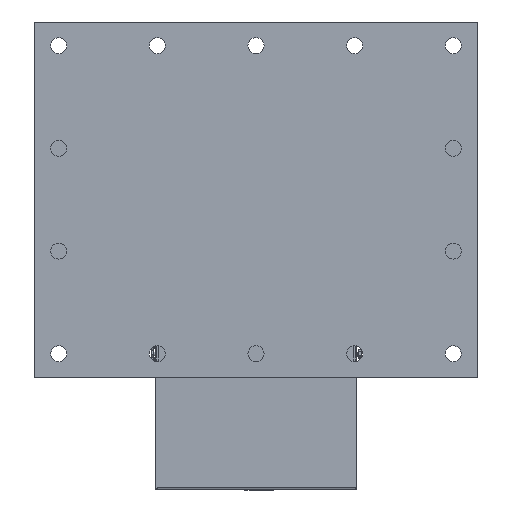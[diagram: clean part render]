
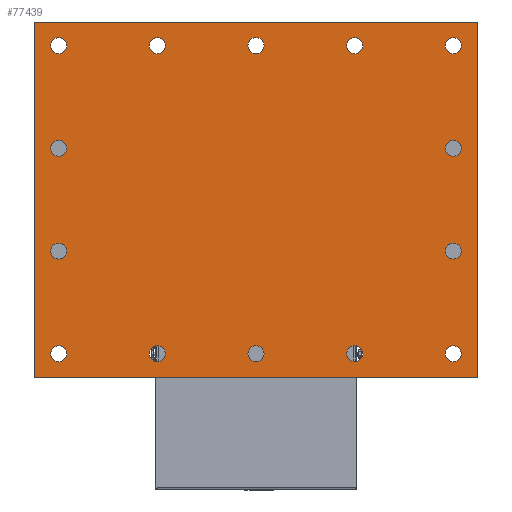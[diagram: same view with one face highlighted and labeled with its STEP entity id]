
A CAD part, top view. The second image highlights one B-rep face of the part: STEP entity #77439.
In plain terms, the highlighted planar face has unit normal (0, 0, 1).
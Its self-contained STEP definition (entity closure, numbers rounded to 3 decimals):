
#3541=FACE_BOUND('',#12370,.T.);
#3542=FACE_BOUND('',#12371,.T.);
#3543=FACE_BOUND('',#12372,.T.);
#3544=FACE_BOUND('',#12373,.T.);
#3545=FACE_BOUND('',#12374,.T.);
#3546=FACE_BOUND('',#12375,.T.);
#3547=FACE_BOUND('',#12376,.T.);
#3548=FACE_BOUND('',#12377,.T.);
#3549=FACE_BOUND('',#12378,.T.);
#3550=FACE_BOUND('',#12379,.T.);
#3551=FACE_BOUND('',#12380,.T.);
#3552=FACE_BOUND('',#12381,.T.);
#3553=FACE_BOUND('',#12382,.T.);
#3554=FACE_BOUND('',#12383,.T.);
#7719=FACE_OUTER_BOUND('',#12369,.T.);
#12369=EDGE_LOOP('',(#61132,#61133,#61134,#61135));
#12370=EDGE_LOOP('',(#61136));
#12371=EDGE_LOOP('',(#61137));
#12372=EDGE_LOOP('',(#61138));
#12373=EDGE_LOOP('',(#61139));
#12374=EDGE_LOOP('',(#61140));
#12375=EDGE_LOOP('',(#61141));
#12376=EDGE_LOOP('',(#61142));
#12377=EDGE_LOOP('',(#61143));
#12378=EDGE_LOOP('',(#61144));
#12379=EDGE_LOOP('',(#61145));
#12380=EDGE_LOOP('',(#61146));
#12381=EDGE_LOOP('',(#61147));
#12382=EDGE_LOOP('',(#61148));
#12383=EDGE_LOOP('',(#61149));
#14818=CIRCLE('',#81458,19.5);
#14821=CIRCLE('',#81462,19.5);
#14823=CIRCLE('',#81465,19.5);
#14824=CIRCLE('',#81467,19.5);
#14827=CIRCLE('',#81471,19.5);
#14828=CIRCLE('',#81473,19.5);
#14831=CIRCLE('',#81477,19.5);
#14832=CIRCLE('',#81479,19.5);
#14835=CIRCLE('',#81483,19.5);
#14837=CIRCLE('',#81486,19.5);
#14839=CIRCLE('',#81489,19.5);
#14840=CIRCLE('',#81491,19.5);
#14842=CIRCLE('',#81494,19.5);
#14845=CIRCLE('',#81498,19.5);
#20555=LINE('',#132979,#26618);
#20556=LINE('',#132981,#26619);
#20557=LINE('',#132983,#26620);
#20558=LINE('',#132984,#26621);
#26618=VECTOR('',#98928,865.);
#26619=VECTOR('',#98929,1080.);
#26620=VECTOR('',#98930,865.);
#26621=VECTOR('',#98931,1080.);
#31413=VERTEX_POINT('',#124802);
#31416=VERTEX_POINT('',#124809);
#31418=VERTEX_POINT('',#124814);
#31419=VERTEX_POINT('',#124817);
#31422=VERTEX_POINT('',#124824);
#31423=VERTEX_POINT('',#124827);
#31426=VERTEX_POINT('',#124834);
#31427=VERTEX_POINT('',#124837);
#31430=VERTEX_POINT('',#124844);
#31432=VERTEX_POINT('',#124849);
#31434=VERTEX_POINT('',#124854);
#31435=VERTEX_POINT('',#124857);
#31437=VERTEX_POINT('',#124862);
#31440=VERTEX_POINT('',#124869);
#33311=VERTEX_POINT('',#132977);
#33312=VERTEX_POINT('',#132978);
#33313=VERTEX_POINT('',#132980);
#33314=VERTEX_POINT('',#132982);
#40055=EDGE_CURVE('',#31413,#31413,#14818,.T.);
#40058=EDGE_CURVE('',#31416,#31416,#14821,.T.);
#40060=EDGE_CURVE('',#31418,#31418,#14823,.T.);
#40061=EDGE_CURVE('',#31419,#31419,#14824,.T.);
#40064=EDGE_CURVE('',#31422,#31422,#14827,.T.);
#40065=EDGE_CURVE('',#31423,#31423,#14828,.T.);
#40068=EDGE_CURVE('',#31426,#31426,#14831,.T.);
#40069=EDGE_CURVE('',#31427,#31427,#14832,.T.);
#40072=EDGE_CURVE('',#31430,#31430,#14835,.T.);
#40074=EDGE_CURVE('',#31432,#31432,#14837,.T.);
#40076=EDGE_CURVE('',#31434,#31434,#14839,.T.);
#40077=EDGE_CURVE('',#31435,#31435,#14840,.T.);
#40079=EDGE_CURVE('',#31437,#31437,#14842,.T.);
#40082=EDGE_CURVE('',#31440,#31440,#14845,.T.);
#42981=EDGE_CURVE('',#33311,#33312,#20555,.T.);
#42982=EDGE_CURVE('',#33313,#33311,#20556,.T.);
#42983=EDGE_CURVE('',#33314,#33313,#20557,.T.);
#42984=EDGE_CURVE('',#33312,#33314,#20558,.T.);
#61132=ORIENTED_EDGE('',*,*,#42981,.F.);
#61133=ORIENTED_EDGE('',*,*,#42982,.F.);
#61134=ORIENTED_EDGE('',*,*,#42983,.F.);
#61135=ORIENTED_EDGE('',*,*,#42984,.F.);
#61136=ORIENTED_EDGE('',*,*,#40055,.T.);
#61137=ORIENTED_EDGE('',*,*,#40058,.T.);
#61138=ORIENTED_EDGE('',*,*,#40060,.T.);
#61139=ORIENTED_EDGE('',*,*,#40061,.T.);
#61140=ORIENTED_EDGE('',*,*,#40064,.T.);
#61141=ORIENTED_EDGE('',*,*,#40065,.T.);
#61142=ORIENTED_EDGE('',*,*,#40068,.T.);
#61143=ORIENTED_EDGE('',*,*,#40069,.T.);
#61144=ORIENTED_EDGE('',*,*,#40072,.T.);
#61145=ORIENTED_EDGE('',*,*,#40074,.T.);
#61146=ORIENTED_EDGE('',*,*,#40076,.T.);
#61147=ORIENTED_EDGE('',*,*,#40077,.T.);
#61148=ORIENTED_EDGE('',*,*,#40079,.T.);
#61149=ORIENTED_EDGE('',*,*,#40082,.T.);
#69604=PLANE('',#83483);
#77439=ADVANCED_FACE('',(#7719,#3541,#3542,#3543,#3544,#3545,#3546,#3547,
#3548,#3549,#3550,#3551,#3552,#3553,#3554),#69604,.T.);
#81458=AXIS2_PLACEMENT_3D('',#124803,#93155,#93156);
#81462=AXIS2_PLACEMENT_3D('',#124810,#93163,#93164);
#81465=AXIS2_PLACEMENT_3D('',#124815,#93169,#93170);
#81467=AXIS2_PLACEMENT_3D('',#124818,#93173,#93174);
#81471=AXIS2_PLACEMENT_3D('',#124825,#93181,#93182);
#81473=AXIS2_PLACEMENT_3D('',#124828,#93185,#93186);
#81477=AXIS2_PLACEMENT_3D('',#124835,#93193,#93194);
#81479=AXIS2_PLACEMENT_3D('',#124838,#93197,#93198);
#81483=AXIS2_PLACEMENT_3D('',#124845,#93205,#93206);
#81486=AXIS2_PLACEMENT_3D('',#124850,#93211,#93212);
#81489=AXIS2_PLACEMENT_3D('',#124855,#93217,#93218);
#81491=AXIS2_PLACEMENT_3D('',#124858,#93221,#93222);
#81494=AXIS2_PLACEMENT_3D('',#124863,#93227,#93228);
#81498=AXIS2_PLACEMENT_3D('',#124870,#93235,#93236);
#83483=AXIS2_PLACEMENT_3D('',#132976,#98926,#98927);
#93155=DIRECTION('center_axis',(0.,0.,-1.));
#93156=DIRECTION('ref_axis',(1.,0.,0.));
#93163=DIRECTION('center_axis',(0.,0.,-1.));
#93164=DIRECTION('ref_axis',(1.,0.,0.));
#93169=DIRECTION('center_axis',(0.,0.,-1.));
#93170=DIRECTION('ref_axis',(1.,0.,0.));
#93173=DIRECTION('center_axis',(0.,0.,-1.));
#93174=DIRECTION('ref_axis',(1.,0.,0.));
#93181=DIRECTION('center_axis',(0.,0.,-1.));
#93182=DIRECTION('ref_axis',(1.,0.,0.));
#93185=DIRECTION('center_axis',(0.,0.,-1.));
#93186=DIRECTION('ref_axis',(1.,0.,0.));
#93193=DIRECTION('center_axis',(0.,0.,-1.));
#93194=DIRECTION('ref_axis',(1.,0.,0.));
#93197=DIRECTION('center_axis',(0.,0.,-1.));
#93198=DIRECTION('ref_axis',(1.,0.,0.));
#93205=DIRECTION('center_axis',(0.,0.,-1.));
#93206=DIRECTION('ref_axis',(1.,0.,0.));
#93211=DIRECTION('center_axis',(0.,0.,-1.));
#93212=DIRECTION('ref_axis',(1.,0.,0.));
#93217=DIRECTION('center_axis',(0.,0.,-1.));
#93218=DIRECTION('ref_axis',(1.,0.,0.));
#93221=DIRECTION('center_axis',(0.,0.,-1.));
#93222=DIRECTION('ref_axis',(1.,0.,0.));
#93227=DIRECTION('center_axis',(0.,0.,-1.));
#93228=DIRECTION('ref_axis',(1.,0.,0.));
#93235=DIRECTION('center_axis',(0.,0.,-1.));
#93236=DIRECTION('ref_axis',(1.,0.,0.));
#98926=DIRECTION('center_axis',(0.,0.,1.));
#98927=DIRECTION('ref_axis',(1.,0.,0.));
#98928=DIRECTION('',(0.,-1.,0.));
#98929=DIRECTION('',(1.,0.,0.));
#98930=DIRECTION('',(0.,1.,0.));
#98931=DIRECTION('',(-1.,0.,0.));
#124802=CARTESIAN_POINT('',(91.737,-224.083,397.583));
#124803=CARTESIAN_POINT('Origin',(72.237,-224.083,397.583));
#124809=CARTESIAN_POINT('',(91.737,-724.083,397.583));
#124810=CARTESIAN_POINT('Origin',(72.237,-724.083,397.583));
#124814=CARTESIAN_POINT('',(-148.263,25.917,397.583));
#124815=CARTESIAN_POINT('Origin',(-167.763,25.917,397.583));
#124817=CARTESIAN_POINT('',(-388.263,-724.083,397.583));
#124818=CARTESIAN_POINT('Origin',(-407.763,-724.083,397.583));
#124824=CARTESIAN_POINT('',(-628.263,25.917,397.583));
#124825=CARTESIAN_POINT('Origin',(-647.763,25.917,397.583));
#124827=CARTESIAN_POINT('',(-868.263,-224.083,397.583));
#124828=CARTESIAN_POINT('Origin',(-887.763,-224.083,397.583));
#124834=CARTESIAN_POINT('',(-868.263,-724.083,397.583));
#124835=CARTESIAN_POINT('Origin',(-887.763,-724.083,397.583));
#124837=CARTESIAN_POINT('',(-868.263,-474.083,397.583));
#124838=CARTESIAN_POINT('Origin',(-887.763,-474.083,397.583));
#124844=CARTESIAN_POINT('',(-868.263,25.917,397.583));
#124845=CARTESIAN_POINT('Origin',(-887.763,25.917,397.583));
#124849=CARTESIAN_POINT('',(-628.263,-724.083,397.583));
#124850=CARTESIAN_POINT('Origin',(-647.763,-724.083,397.583));
#124854=CARTESIAN_POINT('',(-388.263,25.917,397.583));
#124855=CARTESIAN_POINT('Origin',(-407.763,25.917,397.583));
#124857=CARTESIAN_POINT('',(-148.263,-724.083,397.583));
#124858=CARTESIAN_POINT('Origin',(-167.763,-724.083,397.583));
#124862=CARTESIAN_POINT('',(91.737,-474.083,397.583));
#124863=CARTESIAN_POINT('Origin',(72.237,-474.083,397.583));
#124869=CARTESIAN_POINT('',(91.737,25.917,397.583));
#124870=CARTESIAN_POINT('Origin',(72.237,25.917,397.583));
#132976=CARTESIAN_POINT('Origin',(-407.763,-349.083,397.583));
#132977=CARTESIAN_POINT('',(132.237,83.417,397.583));
#132978=CARTESIAN_POINT('',(132.237,-781.583,397.583));
#132979=CARTESIAN_POINT('',(132.237,83.417,397.583));
#132980=CARTESIAN_POINT('',(-947.763,83.417,397.583));
#132981=CARTESIAN_POINT('',(-947.763,83.417,397.583));
#132982=CARTESIAN_POINT('',(-947.763,-781.583,397.583));
#132983=CARTESIAN_POINT('',(-947.763,-781.583,397.583));
#132984=CARTESIAN_POINT('',(132.237,-781.583,397.583));
